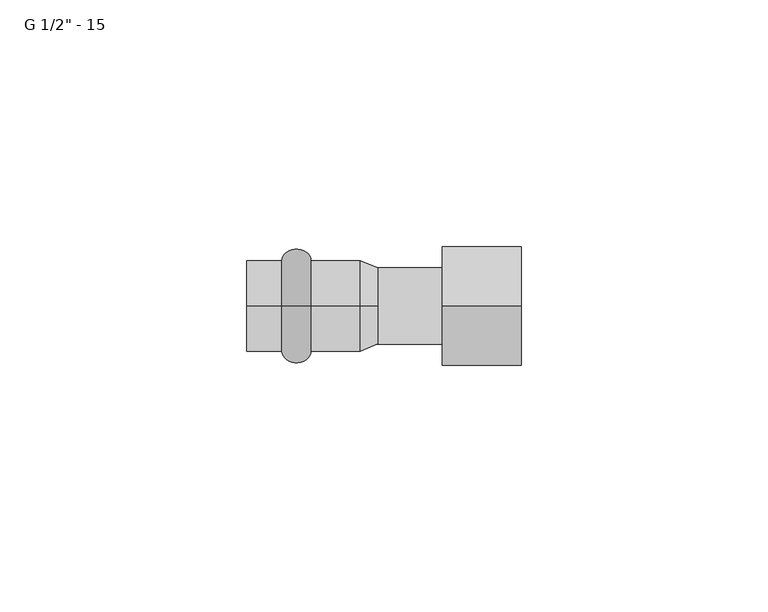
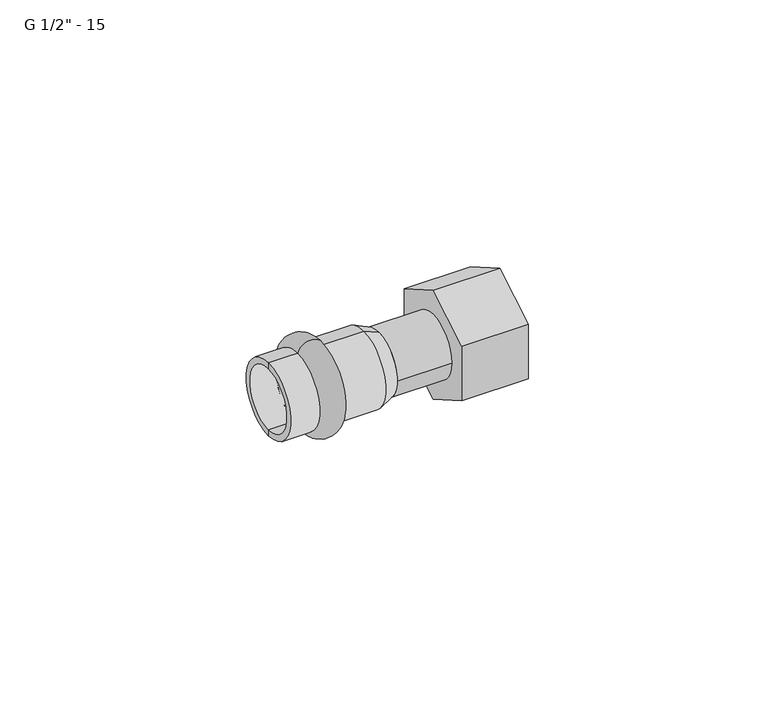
"""IFC4 building model written with IfcOpenShell, lengths in millimetres: pipe fitting geometry."""

from ifc_helpers import new_model, si_unit, point, frame, origin, origin_2d, place, context, project, spatial, polyline, circle_curve, ellipse_curve, trimmed, segment, composite_curve, outline, extrude, source, transform, mapped, element, save
from ifc_brep_helpers import plane_surface, cylinder_surface, revolved_surface, advanced_brep


def pipe_fitting_24fe26c1(model_context):
    return source(origin(), model_context, "Body", "SolidModel", [
        advanced_brep(
        [(-15.9, 0.0, 9.25), (-15.9, 0.0, -9.25), (-10.0, 0.0, -9.25), (-10.0, 0.0, 9.25)],
        [
            (0, 1, circle_curve(frame((-15.9, 0.0, 0.0), z_axis=(-1.0, 0.0, 0.0), x_axis=(0.0, 0.0, -1.0)), 9.25)),
            (1, 2),
            (2, 3, circle_curve(frame((-10.0, 0.0, 0.0), z_axis=(1.0, 0.0, 0.0), x_axis=(0.0, 0.0, -1.0)), 9.25)),
            (3, 0),
            (1, 0, circle_curve(frame((-15.9, 0.0, 0.0), z_axis=(-1.0, 0.0, 0.0), x_axis=(0.0, 0.0, -1.0)), 9.25)),
            (3, 2, circle_curve(frame((-10.0, 0.0, 0.0), z_axis=(1.0, 0.0, 0.0), x_axis=(0.0, 0.0, -1.0)), 9.25)),
            (2, 1, ellipse_curve(frame((-12.95, 0.0, -9.25), z_axis=(0.0, 1.0, 0.0), x_axis=(-1.0, 0.0, 0.0)), 2.95, 2.3)),
            (0, 3, ellipse_curve(frame((-12.95, 0.0, 9.25), z_axis=(0.0, 1.0, 0.0), x_axis=(-1.0, 0.0, 0.0)), 2.95, 2.3)),
        ],
        [
            revolved_surface(polyline([(-10.0, 0.0, -9.25), (-15.899999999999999, 0.0, -9.25)]), (3.0, 0.0, 0.0), (1.0, 0.0, 0.0)),
            revolved_surface(trimmed(ellipse_curve(frame((-12.95, 0.0, -9.25), z_axis=(0.0, -1.0, 0.0), x_axis=(-1.0, 0.0, 0.0)), 2.95, 2.3), [point((-15.9, 0.0, -9.25))], [point((-10.0, 0.0, -9.25))], True, "CARTESIAN"), (3.0, 0.0, 0.0), (1.0, 0.0, 0.0)),
        ],
        [
            (0, [[1, 2, 3, 4]]),
            (0, [[5, -4, 6, -2]]),
            (1, [[-3, 7, -1, 8]]),
            (1, [[-6, -8, -5, -7]]),
        ],
    ),
        advanced_brep(
        [(3.5337785, 0.0, 7.75), (3.5337785, 0.0, -7.75), (0.0, 0.0, -9.25), (0.0, 0.0, 9.25), (-23.0, 0.0, 7.75), (-23.0, 0.0, -7.75), (-23.0, 0.0, 9.25), (-23.0, 0.0, -9.25)],
        [
            (0, 1, circle_curve(frame((3.5337785, 0.0, 0.0), z_axis=(-1.0, 0.0, 0.0), x_axis=(0.0, 0.0, -1.0)), 7.75)),
            (1, 2),
            (2, 3, circle_curve(frame((0.0, 0.0, 0.0), z_axis=(1.0, 0.0, 0.0), x_axis=(0.0, 0.0, -1.0)), 9.25)),
            (3, 0),
            (1, 0, circle_curve(frame((3.5337785, 0.0, 0.0), z_axis=(-1.0, 0.0, 0.0), x_axis=(0.0, 0.0, -1.0)), 7.75)),
            (3, 2, circle_curve(frame((0.0, 0.0, 0.0), z_axis=(1.0, 0.0, 0.0), x_axis=(0.0, 0.0, -1.0)), 9.25)),
            (4, 5, circle_curve(frame((-23.0, 0.0, 0.0), z_axis=(-1.0, 0.0, 0.0), x_axis=(0.0, 0.0, -1.0)), 7.75)),
            (5, 1),
            (0, 4),
            (5, 4, circle_curve(frame((-23.0, 0.0, 0.0), z_axis=(-1.0, 0.0, 0.0), x_axis=(0.0, 0.0, -1.0)), 7.75)),
            (6, 7, circle_curve(frame((-23.0, 0.0, 0.0), z_axis=(-1.0, 0.0, 0.0), x_axis=(0.0, 0.0, -1.0)), 9.25)),
            (7, 5),
            (4, 6),
            (7, 6, circle_curve(frame((-23.0, 0.0, 0.0), z_axis=(-1.0, 0.0, 0.0), x_axis=(0.0, 0.0, -1.0)), 9.25)),
            (2, 7),
            (6, 3),
        ],
        [
            revolved_surface(polyline([(0.0, 0.0, -9.25), (3.5337785, 0.0, -7.75)]), (3.0, 0.0, 0.0), (1.0, 0.0, 0.0)),
            revolved_surface(polyline([(3.5337785, 0.0, -7.75), (-23.0, 0.0, -7.75)]), (3.0, 0.0, 0.0), (1.0, 0.0, 0.0)),
            plane_surface(frame((-23.0, 0.0, 0.0), z_axis=(-1.0, 0.0, 0.0), x_axis=(0.0, 0.0, -1.0))),
            cylinder_surface(frame((3.0, 0.0, 0.0), z_axis=(1.0, 0.0, 0.0), x_axis=(0.0, 0.0, -1.0)), 9.25),
        ],
        [
            (0, [[1, 2, 3, 4]]),
            (0, [[5, -4, 6, -2]]),
            (1, [[7, 8, -1, 9]]),
            (1, [[10, -9, -5, -8]]),
            (2, [[11, 12, -7, 13]]),
            (2, [[14, -13, -10, -12]]),
            (3, [[-3, 15, -11, 16]]),
            (3, [[-6, -16, -14, -15]]),
        ],
    ),
        extrude(outline(composite_curve([segment(trimmed(circle_curve(origin_2d(), 7.75), [point((-7.75, 0.0))], [point((7.75, 0.0))], False, "CARTESIAN"), True, "CONTINUOUS"), segment(trimmed(circle_curve(origin_2d(), 7.75), [point((7.75, 0.0))], [point((-7.75, 0.0))], False, "CARTESIAN"), True, "CONTINUOUS")], self_intersect=False)), frame((3.5337785, 0.0, 0.0), z_axis=(1.0, 0.0, 0.0), x_axis=(0.0, 1.0, 0.0)), (0.0, 0.0, 1.0), 13.1),
        advanced_brep(
        [(32.6337785, -12.0, -6.9282032), (16.6337785, -12.0, -6.9282032), (16.6337785, 0.0, -13.8564065), (32.6337785, 0.0, -13.8564065), (16.6337785, 12.0, -6.9282032), (32.6337785, 12.0, -6.9282032), (32.6337785, 12.0, 6.9282032), (16.6337785, 12.0, 6.9282032), (16.6337785, 0.0, 13.8564065), (32.6337785, 0.0, 13.8564065), (16.6337785, -12.0, 6.9282032), (32.6337785, -12.0, 6.9282032), (32.6337785, -10.75, 0.0), (32.6337785, 10.75, 0.0), (16.6337785, -2.0, -1.1547005), (16.6337785, 0.0, -2.3094011), (16.6337785, 2.0, -1.1547005), (16.6337785, 2.0, 1.1547005), (16.6337785, 0.0, 2.3094011), (16.6337785, -2.0, 1.1547005), (20.6337785, -10.75, 0.0), (20.6337785, 10.75, 0.0), (20.6337785, 0.0, -2.3094011), (20.6337785, -2.0, -1.1547005), (20.6337785, -2.0, 1.1547005), (20.6337785, 0.0, 2.3094011), (20.6337785, 2.0, 1.1547005), (20.6337785, 2.0, -1.1547005)],
        [
            (0, 1),
            (1, 2),
            (2, 3),
            (3, 0),
            (2, 4),
            (4, 5),
            (5, 3),
            (6, 7),
            (7, 8),
            (8, 9),
            (9, 6),
            (8, 10),
            (10, 11),
            (11, 9),
            (4, 7),
            (6, 5),
            (11, 0),
            (12, 13, circle_curve(frame((32.6337785, 0.0, 0.0), z_axis=(-1.0, 0.0, 0.0), x_axis=(0.0, 1.0, 0.0)), 10.75)),
            (13, 12, circle_curve(frame((32.6337785, 0.0, 0.0), z_axis=(-1.0, 0.0, 0.0), x_axis=(0.0, 1.0, 0.0)), 10.75)),
            (1, 10),
            (14, 15),
            (15, 16),
            (16, 17),
            (17, 18),
            (18, 19),
            (19, 14),
            (20, 21, circle_curve(frame((20.6337785, 0.0, 0.0), z_axis=(1.0, 0.0, 0.0), x_axis=(0.0, 1.0, 0.0)), 10.75)),
            (21, 20, circle_curve(frame((20.6337785, 0.0, 0.0), z_axis=(1.0, 0.0, 0.0), x_axis=(0.0, 1.0, 0.0)), 10.75)),
            (22, 23),
            (23, 24),
            (24, 25),
            (25, 26),
            (26, 27),
            (27, 22),
            (21, 13),
            (12, 20),
            (14, 23),
            (22, 15),
            (27, 16),
            (17, 26),
            (25, 18),
            (24, 19),
        ],
        [
            plane_surface(frame((16.6337785, -12.0, -6.9282032), z_axis=(0.0, -0.5000000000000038, -0.8660254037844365), x_axis=(0.0, 0.8660254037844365, -0.5000000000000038))),
            plane_surface(frame((16.6337785, 0.0, -13.8564065), z_axis=(0.0, 0.4999999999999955, -0.8660254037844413), x_axis=(0.0, 0.8660254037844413, 0.4999999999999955))),
            plane_surface(frame((16.6337785, 12.0, 6.9282032), z_axis=(0.0, 0.5000000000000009, 0.8660254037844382), x_axis=(0.0, -0.8660254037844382, 0.5000000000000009))),
            plane_surface(frame((16.6337785, 0.0, 13.8564065), z_axis=(0.0, -0.4999999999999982, 0.8660254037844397), x_axis=(0.0, -0.8660254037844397, -0.4999999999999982))),
            plane_surface(frame((16.6337785, 12.0, -6.9282032), z_axis=(0.0, 1.0, 0.0), x_axis=(0.0, 0.0, 1.0))),
            plane_surface(frame((32.6337785, -12.0, 6.9282032), z_axis=(1.0, 0.0, 0.0), x_axis=(0.0, 0.0, -1.0))),
            plane_surface(frame((16.6337785, -2.0, 1.1547005), z_axis=(-1.0, 0.0, 0.0), x_axis=(0.0, 0.0, -1.0))),
            plane_surface(frame((16.6337785, -12.0, 6.9282032), z_axis=(0.0, -1.0, 0.0), x_axis=(0.0, 0.0, -1.0))),
            plane_surface(frame((20.6337785, 10.75, 0.0), z_axis=(1.0, 0.0, 0.0), x_axis=(0.0, 0.0, -1.0))),
            revolved_surface(polyline([(32.6337785, 10.75, 0.0), (20.6337785, 10.75, 0.0)]), (20.6337785, 0.0, 0.0), (1.0, 0.0, 0.0)),
            plane_surface(frame((32.6337785, -2.0, -1.1547005), z_axis=(0.0, 0.5000000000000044, 0.8660254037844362), x_axis=(0.0, 0.8660254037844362, -0.5000000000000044))),
            plane_surface(frame((32.6337785, 0.0, -2.3094011), z_axis=(0.0, -0.49999999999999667, 0.8660254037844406), x_axis=(0.0, 0.8660254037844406, 0.49999999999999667))),
            plane_surface(frame((32.6337785, 2.0, 1.1547005), z_axis=(0.0, -0.5000000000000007, -0.8660254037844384), x_axis=(0.0, -0.8660254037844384, 0.5000000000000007))),
            plane_surface(frame((32.6337785, 0.0, 2.3094011), z_axis=(0.0, 0.499999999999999, -0.8660254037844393), x_axis=(0.0, -0.8660254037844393, -0.499999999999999))),
            plane_surface(frame((32.6337785, 2.0, -1.1547005), z_axis=(0.0, -1.0, 0.0), x_axis=(0.0, 0.0, 1.0))),
            plane_surface(frame((32.6337785, -2.0, 1.1547005), z_axis=(0.0, 1.0, 0.0), x_axis=(0.0, 0.0, -1.0))),
        ],
        [
            (0, [[1, 2, 3, 4]]),
            (1, [[-3, 5, 6, 7]]),
            (2, [[8, 9, 10, 11]]),
            (3, [[-10, 12, 13, 14]]),
            (4, [[-6, 15, -8, 16]]),
            (5, [[-4, -7, -16, -11, -14, 17], [18, 19]]),
            (6, [[-2, 20, -12, -9, -15, -5], [21, 22, 23, 24, 25, 26]]),
            (7, [[-1, -17, -13, -20]]),
            (8, [[27, 28], [29, 30, 31, 32, 33, 34]]),
            (9, [[-28, 35, -18, 36]]),
            (9, [[-27, -36, -19, -35]]),
            (10, [[-21, 37, -29, 38]]),
            (11, [[-22, -38, -34, 39]]),
            (12, [[-24, 40, -32, 41]]),
            (13, [[-25, -41, -31, 42]]),
            (14, [[-23, -39, -33, -40]]),
            (15, [[-26, -42, -30, -37]]),
        ],
    ),
    ])


if __name__ == "__main__":
    model = new_model("IFC4")
    model_context = context("Model", 3, world=origin())
    ifc_project = project(units=[si_unit("LENGTHUNIT", "METRE", prefix="MILLI")], contexts=[model_context])
    site = spatial("IfcSite", under=ifc_project)
    building = spatial("IfcBuilding", under=site)
    placement = place(None, origin())
    pipe_fitting_shape = pipe_fitting_24fe26c1(model_context)
    element("IfcPipeFitting", 1, ObjectType="РЕХАУ_Пресс Муфта с накидной гайкой : G 1/2\" - 15", at=placement, inside=building, context=model_context, shape_type="MappedRepresentation", body=[
        mapped(pipe_fitting_shape, transform((0.0, 0.0, 0.0), x_axis=(1.0, 0.0, 0.0), y_axis=(0.0, 1.0, 0.0), z_axis=(0.0, 0.0, 1.0))),
    ])
    save(model, "model.ifc")
